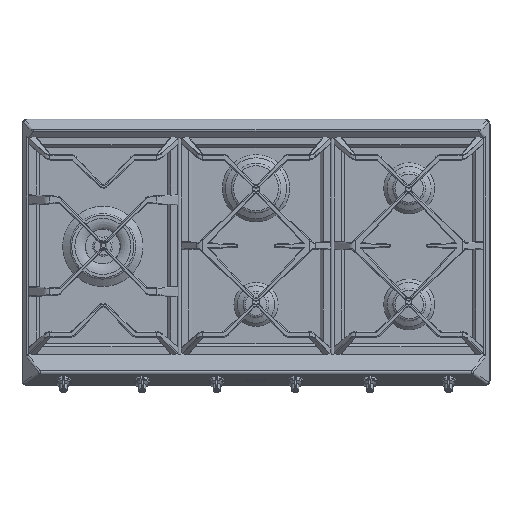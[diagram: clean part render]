
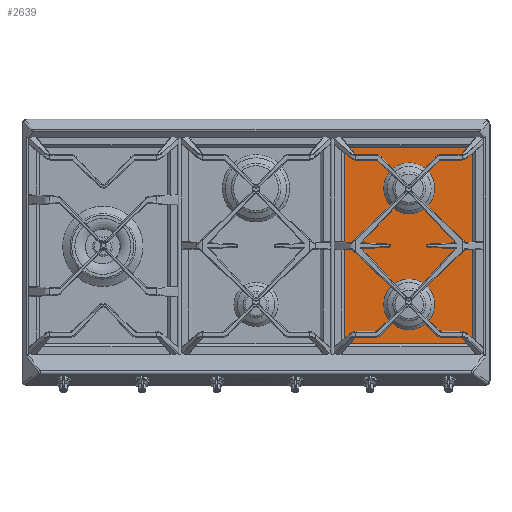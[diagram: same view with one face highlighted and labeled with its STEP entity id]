
A CAD part, top view. The second image highlights one B-rep face of the part: STEP entity #2639.
In plain terms, the highlighted planar face has unit normal (0, 0, 1).
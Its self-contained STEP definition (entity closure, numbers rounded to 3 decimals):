
#2639=ADVANCED_FACE('',(#4397,#4398,#4399),#3849,.T.);
#3849=PLANE('',#19746);
#4397=FACE_BOUND('',#4750,.T.);
#4398=FACE_BOUND('',#4751,.T.);
#4399=FACE_BOUND('',#4752,.T.);
#4750=EDGE_LOOP('',(#9067));
#4751=EDGE_LOOP('',(#9068));
#4752=EDGE_LOOP('',(#9069,#9070,#9071,#9072));
#6140=LINE('',#28098,#7583);
#6141=LINE('',#28101,#7584);
#6142=LINE('',#28103,#7585);
#6143=LINE('',#28105,#7586);
#7583=VECTOR('',#22074,1.);
#7584=VECTOR('',#22075,1.);
#7585=VECTOR('',#22076,1.);
#7586=VECTOR('',#22077,1.);
#9067=ORIENTED_EDGE('',*,*,#16230,.F.);
#9068=ORIENTED_EDGE('',*,*,#16231,.F.);
#9069=ORIENTED_EDGE('',*,*,#16232,.T.);
#9070=ORIENTED_EDGE('',*,*,#16233,.T.);
#9071=ORIENTED_EDGE('',*,*,#16234,.F.);
#9072=ORIENTED_EDGE('',*,*,#16235,.F.);
#14501=VERTEX_POINT('',#28095);
#14502=VERTEX_POINT('',#28097);
#14503=VERTEX_POINT('',#28099);
#14504=VERTEX_POINT('',#28100);
#14505=VERTEX_POINT('',#28102);
#14506=VERTEX_POINT('',#28104);
#16230=EDGE_CURVE('',#14501,#14501,#18946,.T.);
#16231=EDGE_CURVE('',#14502,#14502,#18947,.T.);
#16232=EDGE_CURVE('',#14503,#14504,#6140,.T.);
#16233=EDGE_CURVE('',#14504,#14505,#6141,.T.);
#16234=EDGE_CURVE('',#14506,#14505,#6142,.T.);
#16235=EDGE_CURVE('',#14503,#14506,#6143,.T.);
#18946=CIRCLE('',#19744,48.2);
#18947=CIRCLE('',#19745,48.2);
#19744=AXIS2_PLACEMENT_3D('',#28094,#22070,#22071);
#19745=AXIS2_PLACEMENT_3D('',#28096,#22072,#22073);
#19746=AXIS2_PLACEMENT_3D('',#28106,#22078,#22079);
#22070=DIRECTION('',(0.,0.,1.));
#22071=DIRECTION('',(1.,0.,0.));
#22072=DIRECTION('',(0.,0.,1.));
#22073=DIRECTION('',(1.,0.,0.));
#22074=DIRECTION('',(-1.,0.,0.));
#22075=DIRECTION('',(0.,-1.,0.));
#22076=DIRECTION('',(-1.,0.,0.));
#22077=DIRECTION('',(0.,-1.,0.));
#22078=DIRECTION('',(0.,0.,1.));
#22079=DIRECTION('',(1.,0.,0.));
#28094=CARTESIAN_POINT('',(733.,153.,13.));
#28095=CARTESIAN_POINT('',(781.2,153.,13.));
#28096=CARTESIAN_POINT('',(733.,373.,13.));
#28097=CARTESIAN_POINT('',(781.2,373.,13.));
#28098=CARTESIAN_POINT('',(0.,462.859,13.));
#28099=CARTESIAN_POINT('',(868.515,462.859,13.));
#28100=CARTESIAN_POINT('',(595.115,462.859,13.));
#28101=CARTESIAN_POINT('',(595.115,483.25,13.));
#28102=CARTESIAN_POINT('',(595.115,65.572,13.));
#28103=CARTESIAN_POINT('',(0.,65.572,13.));
#28104=CARTESIAN_POINT('',(868.515,65.572,13.));
#28105=CARTESIAN_POINT('',(868.515,30.75,13.));
#28106=CARTESIAN_POINT('',(0.,0.,13.));
